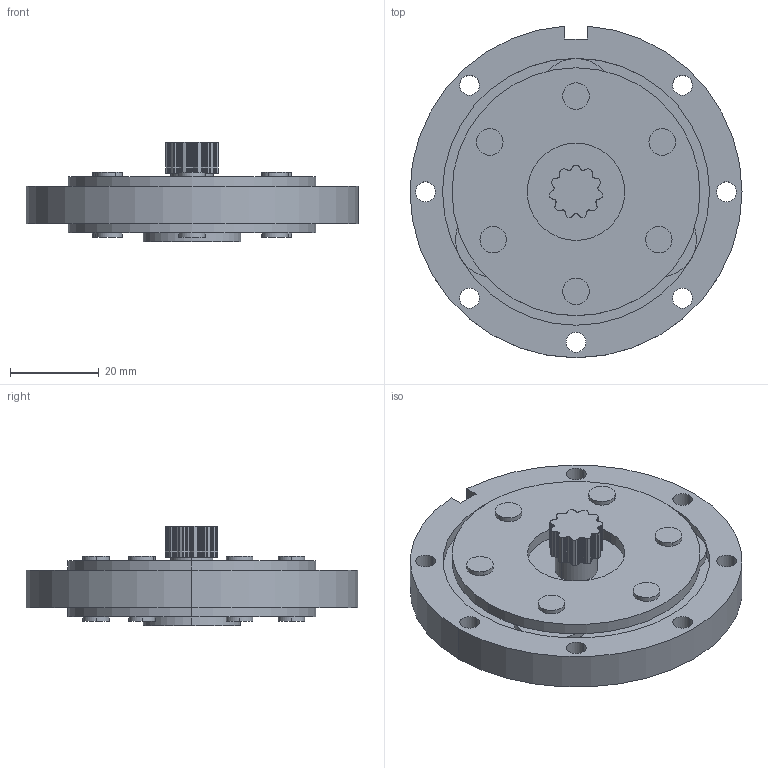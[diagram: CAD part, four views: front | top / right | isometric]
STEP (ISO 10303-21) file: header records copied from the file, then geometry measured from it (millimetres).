
FILE_DESCRIPTION (( 'STEP AP203' ), '1' );
FILE_NAME ('LGU75-3MLD.step', '2021-07-23T02:27:09', ( '' ), ( '' ), 'SwSTEP 2.0', 'SolidWorks 2021', '' );
FILE_SCHEMA (( 'CONFIG_CONTROL_DESIGN' ));
Length unit declared in the file: millimetre
Products named in the file (1): LGU75-3MLD
Bounding box: 75 x 74.92 x 22.5 mm (x, y, z)
Volume: 37874.1 mm3; surface area: 23624 mm2
Topology: 1 solids, 1 shells, 422 faces, 1179 edges, 786 vertices
Faces by surface type: cylinder 390, plane 32
Entity records: 14172 total; most frequent: DIRECTION 2805, CARTESIAN_POINT 2388, ORIENTED_EDGE 2358, AXIS2_PLACEMENT_3D 1203, EDGE_CURVE 1179, VERTEX_POINT 786, CIRCLE 780, EDGE_LOOP 475
